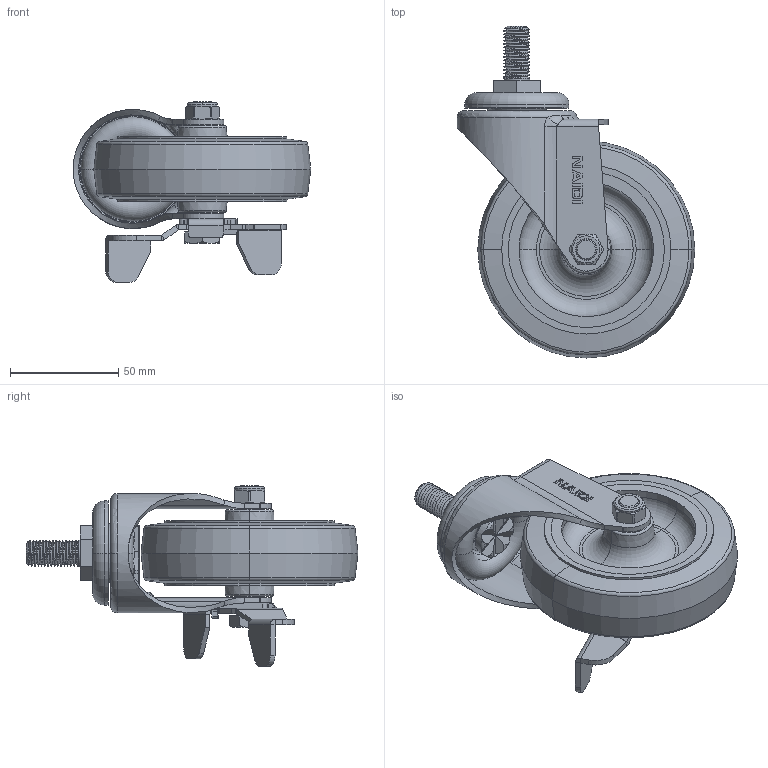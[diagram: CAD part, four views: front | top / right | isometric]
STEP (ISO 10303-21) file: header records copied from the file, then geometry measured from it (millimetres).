
FILE_DESCRIPTION((''),'2;1');
FILE_NAME('C52144C_ASM','2024-05-22T',('Lenovo'),(''),'PRO/ENGINEER BY PARAMETRIC TECHNOLOGY CORPORATION, 2010280','PRO/ENGINEER BY PARAMETRIC TECHNOLOGY CORPORATION, 2010280','');
FILE_SCHEMA(('CONFIG_CONTROL_DESIGN'));
Length unit declared in the file: millimetre
Products named in the file (11): 550-23M12X25; 500-36; C5210-211; C5214-311; C524-964; 500-54; 504-15; 500-14; 502-33; 570-34; C52144C_ASM
Assembly tree (12 placements, depth 2):
  C52144C_ASM
    550-23M12X25
    500-36  x2
    C5210-211  x2
    C5214-311
    C524-964
    500-54
    504-15
    500-14
    502-33
    570-34
Bounding box: 109.5 x 153 x 83.14 mm (x, y, z)
Volume: 162399.8 mm3; surface area: 99774.2 mm2
Topology: 12 solids, 13 shells, 536 faces, 1253 edges, 768 vertices
Faces by surface type: plane 223, cylinder 176, cone 56, torus 50, bspline 31
Entity records: 19981 total; most frequent: CARTESIAN_POINT 8159, DIRECTION 2418, ORIENTED_EDGE 2398, EDGE_CURVE 1199, AXIS2_PLACEMENT_3D 902, VERTEX_POINT 736, VECTOR 614, LINE 614
